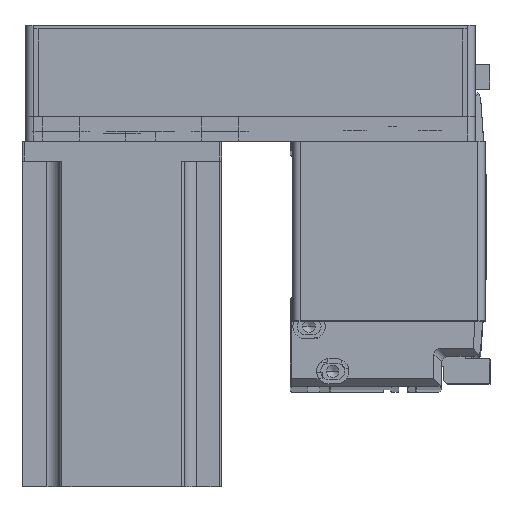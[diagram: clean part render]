
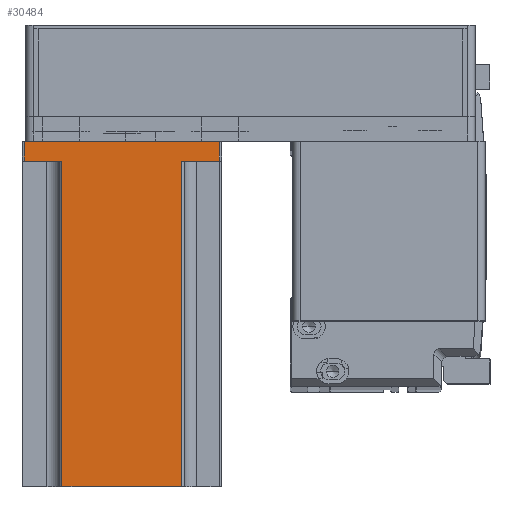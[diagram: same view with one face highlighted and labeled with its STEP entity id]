
A CAD part, top view. The second image highlights one B-rep face of the part: STEP entity #30484.
In plain terms, the highlighted planar face has unit normal (0, 0, 1) as drawn and (0, 1, 0) by its records, which use the part's own axes.
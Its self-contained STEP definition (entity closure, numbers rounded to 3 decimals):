
#354 = VECTOR ( 'NONE', #15458, 1000. ) ;
#572 = LINE ( 'NONE', #26907, #32585 ) ;
#762 = LINE ( 'NONE', #2922, #21664 ) ;
#920 = VECTOR ( 'NONE', #13501, 1000. ) ;
#1100 = CARTESIAN_POINT ( 'NONE',  ( 40., 40., 138.3 ) ) ;
#1770 = CARTESIAN_POINT ( 'NONE',  ( -24., 40., 138.3 ) ) ;
#1938 = DIRECTION ( 'NONE',  ( 0., -1., 0. ) ) ;
#2196 = ORIENTED_EDGE ( 'NONE', *, *, #48299, .T. ) ;
#2464 = AXIS2_PLACEMENT_3D ( 'NONE', #26973, #1938, #31155 ) ;
#2471 = CARTESIAN_POINT ( 'NONE',  ( -25., 40., 8. ) ) ;
#2628 = CARTESIAN_POINT ( 'NONE',  ( 25., 40., 8. ) ) ;
#2891 = CARTESIAN_POINT ( 'NONE',  ( -24., 40., 138.3 ) ) ;
#2922 = CARTESIAN_POINT ( 'NONE',  ( 39., 40., 138.3 ) ) ;
#4463 = CARTESIAN_POINT ( 'NONE',  ( 24., 40., 138.3 ) ) ;
#5626 = ORIENTED_EDGE ( 'NONE', *, *, #33925, .F. ) ;
#5739 = EDGE_CURVE ( 'NONE', #46999, #48713, #572, .T. ) ;
#8209 = EDGE_CURVE ( 'NONE', #39621, #25881, #34506, .T. ) ;
#9159 = VERTEX_POINT ( 'NONE', #1770 ) ;
#9388 = FACE_OUTER_BOUND ( 'NONE', #36153, .T. ) ;
#10196 = EDGE_CURVE ( 'NONE', #42580, #9159, #12012, .T. ) ;
#10536 = VECTOR ( 'NONE', #27649, 1000. ) ;
#11428 = LINE ( 'NONE', #2891, #354 ) ;
#11842 = LINE ( 'NONE', #2628, #10536 ) ;
#12012 = LINE ( 'NONE', #1100, #920 ) ;
#12740 = CARTESIAN_POINT ( 'NONE',  ( -39., 40., 0. ) ) ;
#13372 = CARTESIAN_POINT ( 'NONE',  ( 24., 40., 138.3 ) ) ;
#13501 = DIRECTION ( 'NONE',  ( -1., 0., 0. ) ) ;
#15037 = DIRECTION ( 'NONE',  ( 1., 0., 0. ) ) ;
#15458 = DIRECTION ( 'NONE',  ( 0., 0., 1. ) ) ;
#16409 = ORIENTED_EDGE ( 'NONE', *, *, #21894, .T. ) ;
#17888 = EDGE_CURVE ( 'NONE', #36081, #46999, #762, .T. ) ;
#18029 = CARTESIAN_POINT ( 'NONE',  ( -24., 40., 8. ) ) ;
#18378 = PLANE ( 'NONE',  #2464 ) ;
#19451 = LINE ( 'NONE', #13372, #41756 ) ;
#21009 = CARTESIAN_POINT ( 'NONE',  ( 39., 40., 0. ) ) ;
#21592 = DIRECTION ( 'NONE',  ( 0., 0., -1. ) ) ;
#21664 = VECTOR ( 'NONE', #53104, 1000. ) ;
#21894 = EDGE_CURVE ( 'NONE', #48713, #39621, #50659, .T. ) ;
#23369 = VECTOR ( 'NONE', #15037, 1000. ) ;
#25881 = VERTEX_POINT ( 'NONE', #18029 ) ;
#26907 = CARTESIAN_POINT ( 'NONE',  ( 40., 40., 0. ) ) ;
#26973 = CARTESIAN_POINT ( 'NONE',  ( 40., 40., 138.3 ) ) ;
#27056 = CARTESIAN_POINT ( 'NONE',  ( -39., 40., 8. ) ) ;
#27649 = DIRECTION ( 'NONE',  ( -1., 0., 0. ) ) ;
#28289 = VECTOR ( 'NONE', #38864, 1000. ) ;
#29195 = VERTEX_POINT ( 'NONE', #47590 ) ;
#29340 = EDGE_CURVE ( 'NONE', #25881, #9159, #11428, .T. ) ;
#30484 = ADVANCED_FACE ( 'NONE', ( #9388 ), #18378, .F. ) ;
#31155 = DIRECTION ( 'NONE',  ( 1., 0., 0. ) ) ;
#32585 = VECTOR ( 'NONE', #48005, 1000. ) ;
#33242 = ORIENTED_EDGE ( 'NONE', *, *, #29340, .T. ) ;
#33866 = CARTESIAN_POINT ( 'NONE',  ( -39., 40., 138.3 ) ) ;
#33925 = EDGE_CURVE ( 'NONE', #36081, #29195, #11842, .T. ) ;
#34506 = LINE ( 'NONE', #2471, #23369 ) ;
#36081 = VERTEX_POINT ( 'NONE', #37675 ) ;
#36153 = EDGE_LOOP ( 'NONE', ( #46579, #33242, #42894, #2196, #5626, #39150, #41145, #16409 ) ) ;
#37675 = CARTESIAN_POINT ( 'NONE',  ( 39., 40., 8. ) ) ;
#38864 = DIRECTION ( 'NONE',  ( 0., 0., 1. ) ) ;
#39150 = ORIENTED_EDGE ( 'NONE', *, *, #17888, .T. ) ;
#39621 = VERTEX_POINT ( 'NONE', #27056 ) ;
#41145 = ORIENTED_EDGE ( 'NONE', *, *, #5739, .T. ) ;
#41756 = VECTOR ( 'NONE', #21592, 1000. ) ;
#42580 = VERTEX_POINT ( 'NONE', #4463 ) ;
#42894 = ORIENTED_EDGE ( 'NONE', *, *, #10196, .F. ) ;
#46579 = ORIENTED_EDGE ( 'NONE', *, *, #8209, .T. ) ;
#46999 = VERTEX_POINT ( 'NONE', #21009 ) ;
#47590 = CARTESIAN_POINT ( 'NONE',  ( 24., 40., 8. ) ) ;
#48005 = DIRECTION ( 'NONE',  ( -1., 0., 0. ) ) ;
#48299 = EDGE_CURVE ( 'NONE', #42580, #29195, #19451, .T. ) ;
#48713 = VERTEX_POINT ( 'NONE', #12740 ) ;
#50659 = LINE ( 'NONE', #33866, #28289 ) ;
#53104 = DIRECTION ( 'NONE',  ( 0., 0., -1. ) ) ;
